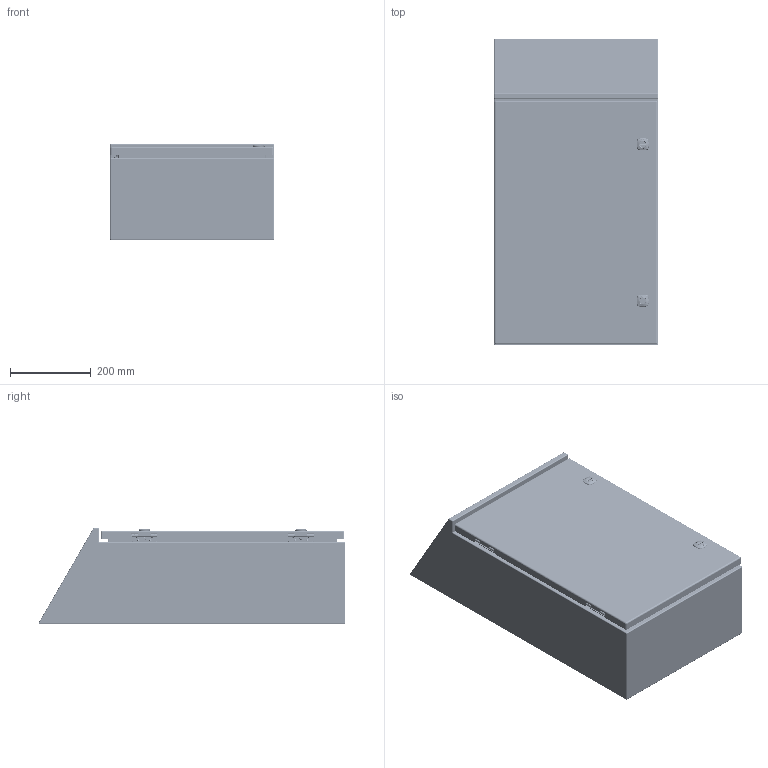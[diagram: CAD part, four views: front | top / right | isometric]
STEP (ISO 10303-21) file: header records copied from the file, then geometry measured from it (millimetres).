
FILE_DESCRIPTION(/* description */ ('5412ESSCET 24" x 16" x 8" Assembly'),/* implementation_level */ '2;1');
FILE_NAME(/* name */ 'C:\Vault_Workspace\Inventor_Dwg\BoxCad\Result\5412ESSCET241608\e-mail\3D\5412ESSCET241608.stp',/* time_stamp */ '2022-07-15T08:04:14-04:00',/* author */ ('BoxCad'),/* organization */ (''),/* preprocessor_version */ 'ST-DEVELOPER v18.1',/* originating_system */ 'Autodesk Inventor 2020',/* authorisation */ '');
FILE_SCHEMA (('AUTOMOTIVE_DESIGN { 1 0 10303 214 3 1 1 }'));
Products named in the file (42): 5412ESSCET241608; 5412ESSCET241608B; 5412ESSCET241608B-P; STK-Q-16020; STUD_SS_M6 x 16mm; STK-Q-07610; 881SP2416G; 881SP2416G-P; STK-Q-07310; 5412ESSCET241608C; 5412ESSCET241608C-P; 5412ESSCET241608G; STK-A-33016-1; STK-A-33016-2; STK-Q-33016-A; STK-Q-90261; STK-Q-40096; STK-Q-33016-B; STK-Q-16070; STK-Q-46020-24; STK-Q-07220-1; STK-Q-07220-2; STK-Q-07220-3; STK-Q-07220-4; STK-Q-07220-A; STK-Q-07220-B; STK-A-880SCQ4-SLSS6-1; STK-A-880SCQ4-SLSS6-2; STK-Q-70621; STK-Q-70631; STK-Q-78145; STK-Q-03200; STK-Q-78125; STK-Q-90390; STK-Q-78160; STK-Q-78141; STK-Q-04051-07-1(1); STK-Q-04051-07-2; STK-Q-04051-07-P; STK-Q-04051-N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
Assembly tree (78 placements, depth 4):
  5412ESSCET241608
    5412ESSCET241608B
      5412ESSCET241608B-P
      STK-Q-16020  x4
      STUD_SS_M6 x 16mm
    STK-Q-07610  x4
    881SP2416G
      881SP2416G-P
    STK-Q-07310  x4
    5412ESSCET241608C
      5412ESSCET241608C-P
      5412ESSCET241608G
      STK-A-33016-1
        STK-Q-33016-A
        STK-Q-90261
        STK-Q-40096  x2
        STK-Q-33016-B  x2
      STK-A-33016-2
        STK-Q-33016-A
        STK-Q-90261
        STK-Q-40096  x2
        STK-Q-33016-B  x2
      STK-Q-16070  x4
      STK-Q-46020-24  x2
      STK-Q-07220-1
        STK-Q-07220-A
        STK-Q-07220-B
      STK-Q-07220-2
        STK-Q-07220-A
        STK-Q-07220-B
      STK-Q-07220-3
        STK-Q-07220-A
        STK-Q-07220-B
      STK-Q-07220-4
        STK-Q-07220-A
        STK-Q-07220-B
      STK-A-880SCQ4-SLSS6-1
        STK-Q-70621
        STK-Q-70631
        STK-Q-78145
        STK-Q-03200
        STK-Q-78125
        STK-Q-90390
        STK-Q-78160
        STK-Q-78141
      STK-A-880SCQ4-SLSS6-2
        STK-Q-70621
        STK-Q-70631
        STK-Q-78145
        STK-Q-03200
        STK-Q-78125
        STK-Q-90390
        STK-Q-78160
        STK-Q-78141
    STK-Q-04051-07-1(1)
      STK-Q-04051-07-P
      STK-Q-04051-N
    STK-Q-04051-07-2
      STK-Q-04051-07-P
      STK-Q-04051-N
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Bounding box: 406.4 x 761.8 x 238.75 mm (x, y, z)
Volume: 2360125.2 mm3; surface area: 3004685.8 mm2
Topology: 63 solids, 63 shells, 9172 faces, 25106 edges, 16183 vertices
Faces by surface type: bspline 3332, plane 2963, cylinder 2200, torus 367, sphere 180, cone 130
Full cylindrical faces by diameter (mm): 0 x1, 0.75 x9, 0.762 x9, 1 x8, 1.125 x4, 3.2 x4, 4.191 x40, 4.5 x4, 4.85 x16, 5 x4, 5.1 x40, 5.9 x29, 6 x2, 6.015 x40, 6.655 x4, 6.8 x4, 6.85 x16, 7.1 x2, 7.366 x6, 7.9 x4, 8 x12, 9 x4, 9.5 x4, 9.6 x2, 9.906 x4, 10 x2, 12 x2, 12.8 x2, 13 x2, 15.9 x2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
Entity records: 148424 total; most frequent: CARTESIAN_POINT 62476, ORIENTED_EDGE 20044, DIRECTION 13541, EDGE_CURVE 10022, VERTEX_POINT 6455, AXIS2_PLACEMENT_3D 4681, LINE 4179, VECTOR 4179
